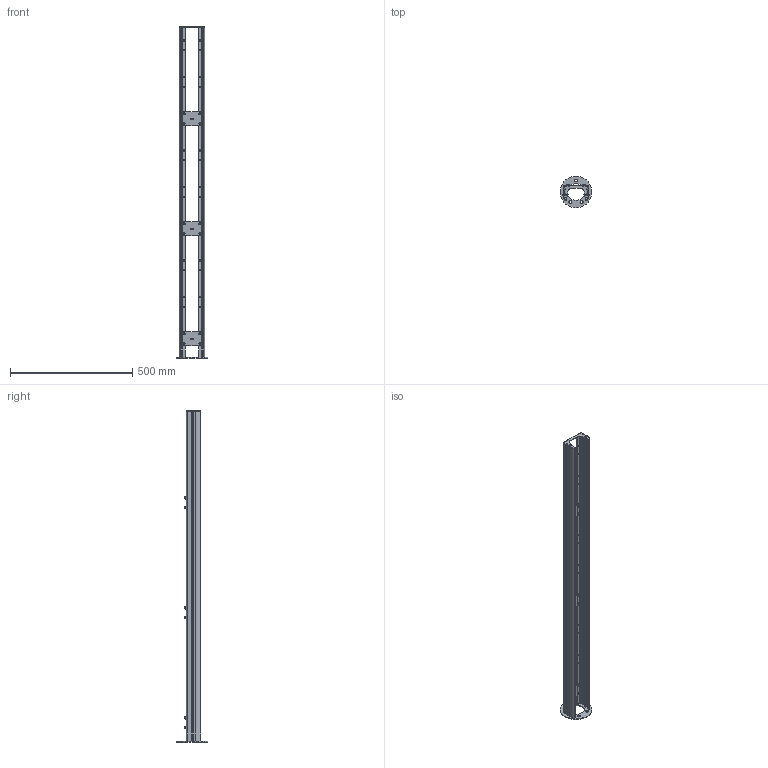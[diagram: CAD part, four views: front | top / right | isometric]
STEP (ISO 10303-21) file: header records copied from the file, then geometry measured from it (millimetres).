
FILE_DESCRIPTION(/* description */ (''),/* implementation_level */ '2;1');
FILE_NAME(/* name */ '001A-02-Device_Column_1350mm.stp',/* time_stamp */ '2025-11-11T23:40:44+01:00',/* author */ (''),/* organization */ (''),/* preprocessor_version */ 'ST-DEVELOPER v20',/* originating_system */ 'SIEMENS PLM Software NX2412.4001',/* authorisation */ '');
FILE_SCHEMA (('AP203_CONFIGURATION_CONTROLLED_3D_DESIGN_OF_MECHANICAL_PARTS_AND_ASSEMBLIES_MIM_LF { 1 0 10303 403 2 1 2}'));
Products named in the file (1): AS007798_objects
Bounding box: 130 x 130 x 1358.25 mm (x, y, z)
Volume: 4741307.7 mm3; surface area: 4905402.2 mm2
Topology: 85 solids, 85 shells, 4075 faces, 11542 edges, 7665 vertices
Faces by surface type: plane 2080, cylinder 1335, cone 626, torus 20, bspline 10, sphere 4
Full cylindrical faces by diameter (mm): 4.2 x12, 5 x228, 5.25 x2, 5.3 x12, 5.5 x24, 5.6 x12, 5.795 x28, 7 x12, 7.2 x4, 8.5 x12, 10 x12, 12 x7, 68 x1, 130 x1
Entity records: 153058 total; most frequent: CARTESIAN_POINT 42770, DIRECTION 23384, ORIENTED_EDGE 21696, EDGE_CURVE 10848, AXIS2_PLACEMENT_3D 8884, VERTEX_POINT 7380, LINE 5616, VECTOR 5616
